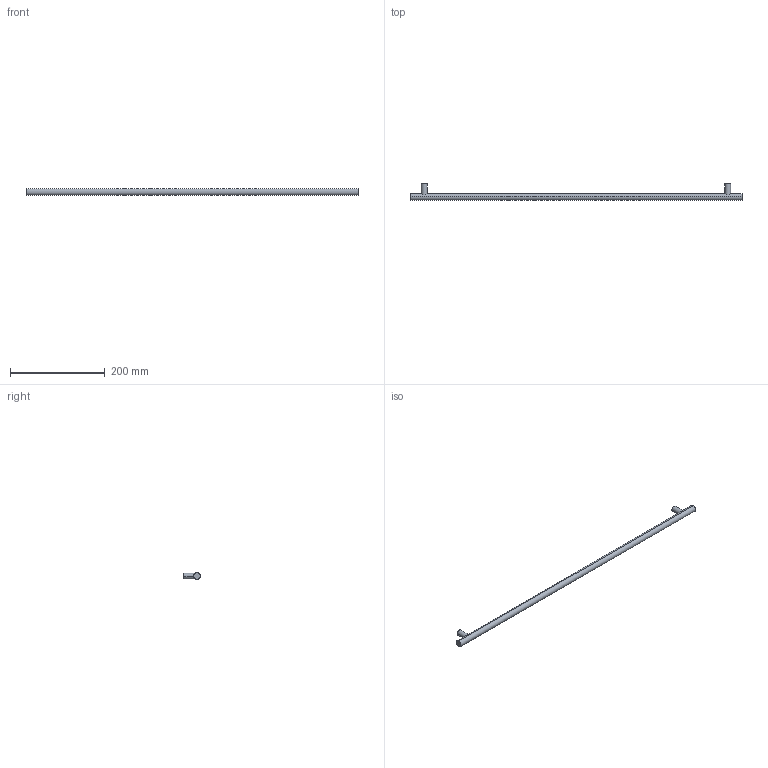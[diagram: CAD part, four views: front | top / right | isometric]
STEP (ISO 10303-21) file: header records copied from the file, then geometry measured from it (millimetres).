
FILE_DESCRIPTION( ( '' ), '1' );
FILE_NAME( 'D:/1.AUTOCAD EXPORT/Group 10/sheet_10_1/9071112.stp', '2013-10-21T10:27:01', ( '' ), ( '' ), ' ', ' ', ' ' );
FILE_SCHEMA( ( 'automotive_design' ) );
Length unit declared in the file: millimetre
Products named in the file (1): 1
Bounding box: 700 x 35 x 14 mm (x, y, z)
Volume: 112368.6 mm3; surface area: 33067.3 mm2
Topology: 1 solids, 1 shells, 16 faces, 32 edges, 22 vertices
Faces by surface type: cylinder 10, plane 6
Entity records: 972 total; most frequent: CARTESIAN_POINT 205, DIRECTION 76, STYLED_ITEM 71, PRESENTATION_STYLE_ASSIGNMENT 71, COLOUR_RGB 71, ORIENTED_EDGE 64, AXIS2_PLACEMENT_3D 33, EDGE_CURVE 32
